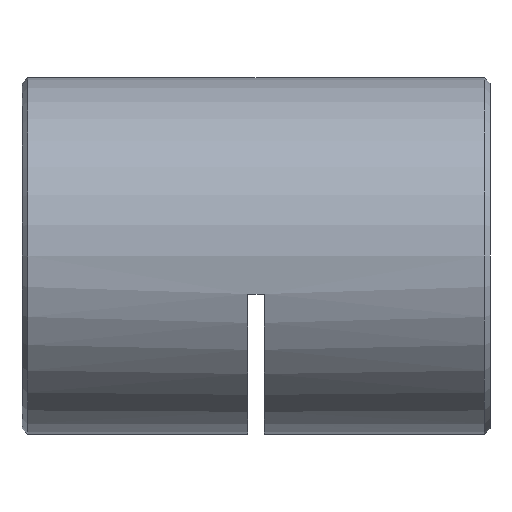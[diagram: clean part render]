
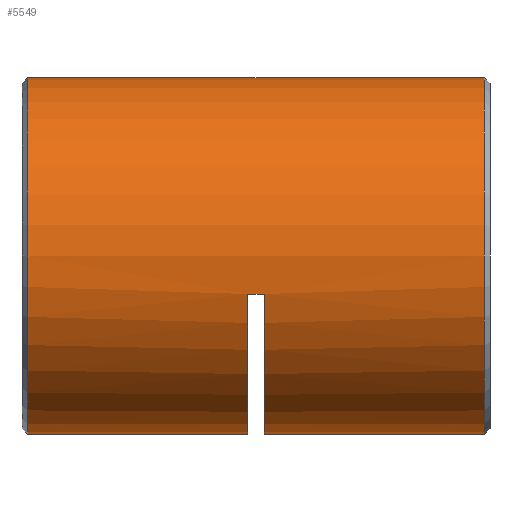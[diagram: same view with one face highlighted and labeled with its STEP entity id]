
A CAD part, left-side view. The second image highlights one B-rep face of the part: STEP entity #5549.
In plain terms, the highlighted cylindrical face has radius 16 mm (diameter 32 mm), a partial arc.
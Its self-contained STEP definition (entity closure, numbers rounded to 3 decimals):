
#200 = EDGE_CURVE ( 'NONE', #4081, #4146, #3430, .T. ) ;
#384 = DIRECTION ( 'NONE',  ( 0., -1., 0. ) ) ;
#454 = DIRECTION ( 'NONE',  ( 0., 0., -1. ) ) ;
#478 = CARTESIAN_POINT ( 'NONE',  ( 0., 41.75, -16. ) ) ;
#484 = EDGE_CURVE ( 'NONE', #4146, #6333, #4708, .T. ) ;
#497 = VERTEX_POINT ( 'NONE', #5887 ) ;
#593 = AXIS2_PLACEMENT_3D ( 'NONE', #1903, #384, #454 ) ;
#643 = CARTESIAN_POINT ( 'NONE',  ( 0., 42.5, -16. ) ) ;
#1187 = CARTESIAN_POINT ( 'NONE',  ( 0., 20.5, 0. ) ) ;
#1370 = ORIENTED_EDGE ( 'NONE', *, *, #200, .T. ) ;
#1468 = EDGE_CURVE ( 'NONE', #2782, #2618, #1989, .T. ) ;
#1663 = CYLINDRICAL_SURFACE ( 'NONE', #593, 16. ) ;
#1761 = LINE ( 'NONE', #3188, #4951 ) ;
#1812 = CARTESIAN_POINT ( 'NONE',  ( -15.632, 22., -3.413 ) ) ;
#1866 = EDGE_CURVE ( 'NONE', #6333, #2618, #3073, .T. ) ;
#1879 = DIRECTION ( 'NONE',  ( 0., -1., 0. ) ) ;
#1903 = CARTESIAN_POINT ( 'NONE',  ( 0., 42.5, 0. ) ) ;
#1909 = ORIENTED_EDGE ( 'NONE', *, *, #3796, .T. ) ;
#1989 = LINE ( 'NONE', #2287, #3942 ) ;
#1997 = VERTEX_POINT ( 'NONE', #1812 ) ;
#2061 = DIRECTION ( 'NONE',  ( 0., -1., 0. ) ) ;
#2081 = CARTESIAN_POINT ( 'NONE',  ( 0., 22., 0. ) ) ;
#2101 = DIRECTION ( 'NONE',  ( 0., 0., -1. ) ) ;
#2152 = ORIENTED_EDGE ( 'NONE', *, *, #484, .T. ) ;
#2168 = VECTOR ( 'NONE', #2061, 1000. ) ;
#2250 = AXIS2_PLACEMENT_3D ( 'NONE', #4858, #1879, #3409 ) ;
#2287 = CARTESIAN_POINT ( 'NONE',  ( 0., 42.5, 16. ) ) ;
#2486 = CARTESIAN_POINT ( 'NONE',  ( 0., 42.5, -16. ) ) ;
#2618 = VERTEX_POINT ( 'NONE', #3312 ) ;
#2675 = ORIENTED_EDGE ( 'NONE', *, *, #1468, .F. ) ;
#2782 = VERTEX_POINT ( 'NONE', #4118 ) ;
#3073 = CIRCLE ( 'NONE', #5516, 16. ) ;
#3125 = DIRECTION ( 'NONE',  ( 0., -1., 0. ) ) ;
#3163 = ORIENTED_EDGE ( 'NONE', *, *, #4904, .F. ) ;
#3188 = CARTESIAN_POINT ( 'NONE',  ( -15.632, 21.25, -3.413 ) ) ;
#3312 = CARTESIAN_POINT ( 'NONE',  ( 0., 0.75, 16. ) ) ;
#3337 = DIRECTION ( 'NONE',  ( 0., -1., 0. ) ) ;
#3366 = VERTEX_POINT ( 'NONE', #478 ) ;
#3398 = CIRCLE ( 'NONE', #2250, 16. ) ;
#3407 = CIRCLE ( 'NONE', #5768, 16. ) ;
#3409 = DIRECTION ( 'NONE',  ( 0., 0., -1. ) ) ;
#3430 = CIRCLE ( 'NONE', #5088, 16. ) ;
#3486 = DIRECTION ( 'NONE',  ( 0., -1., 0. ) ) ;
#3537 = EDGE_CURVE ( 'NONE', #1997, #4081, #1761, .T. ) ;
#3698 = ORIENTED_EDGE ( 'NONE', *, *, #5604, .T. ) ;
#3730 = CARTESIAN_POINT ( 'NONE',  ( 0., 0.75, -16. ) ) ;
#3749 = CARTESIAN_POINT ( 'NONE',  ( 0., 0.75, 0. ) ) ;
#3796 = EDGE_CURVE ( 'NONE', #3366, #497, #5946, .T. ) ;
#3922 = DIRECTION ( 'NONE',  ( 0., 0., -1. ) ) ;
#3942 = VECTOR ( 'NONE', #3337, 1000. ) ;
#4081 = VERTEX_POINT ( 'NONE', #4785 ) ;
#4118 = CARTESIAN_POINT ( 'NONE',  ( 0., 41.75, 16. ) ) ;
#4146 = VERTEX_POINT ( 'NONE', #4276 ) ;
#4208 = DIRECTION ( 'NONE',  ( 0., -1., 0. ) ) ;
#4276 = CARTESIAN_POINT ( 'NONE',  ( 0., 20.5, -16. ) ) ;
#4302 = DIRECTION ( 'NONE',  ( 0., 0., 1. ) ) ;
#4681 = FACE_OUTER_BOUND ( 'NONE', #5225, .T. ) ;
#4706 = DIRECTION ( 'NONE',  ( 0., 1., 0. ) ) ;
#4708 = LINE ( 'NONE', #2486, #4787 ) ;
#4785 = CARTESIAN_POINT ( 'NONE',  ( -15.632, 20.5, -3.413 ) ) ;
#4787 = VECTOR ( 'NONE', #3486, 1000. ) ;
#4858 = CARTESIAN_POINT ( 'NONE',  ( 0., 41.75, 0. ) ) ;
#4904 = EDGE_CURVE ( 'NONE', #1997, #497, #3407, .T. ) ;
#4914 = ORIENTED_EDGE ( 'NONE', *, *, #1866, .T. ) ;
#4951 = VECTOR ( 'NONE', #4208, 1000. ) ;
#5088 = AXIS2_PLACEMENT_3D ( 'NONE', #1187, #5733, #3922 ) ;
#5225 = EDGE_LOOP ( 'NONE', ( #2675, #3698, #1909, #3163, #5581, #1370, #2152, #4914 ) ) ;
#5516 = AXIS2_PLACEMENT_3D ( 'NONE', #3749, #4706, #4302 ) ;
#5549 = ADVANCED_FACE ( 'NONE', ( #4681 ), #1663, .T. ) ;
#5581 = ORIENTED_EDGE ( 'NONE', *, *, #3537, .T. ) ;
#5604 = EDGE_CURVE ( 'NONE', #2782, #3366, #3398, .T. ) ;
#5733 = DIRECTION ( 'NONE',  ( 0., -1., 0. ) ) ;
#5768 = AXIS2_PLACEMENT_3D ( 'NONE', #2081, #3125, #2101 ) ;
#5887 = CARTESIAN_POINT ( 'NONE',  ( 0., 22., -16. ) ) ;
#5946 = LINE ( 'NONE', #643, #2168 ) ;
#6333 = VERTEX_POINT ( 'NONE', #3730 ) ;
